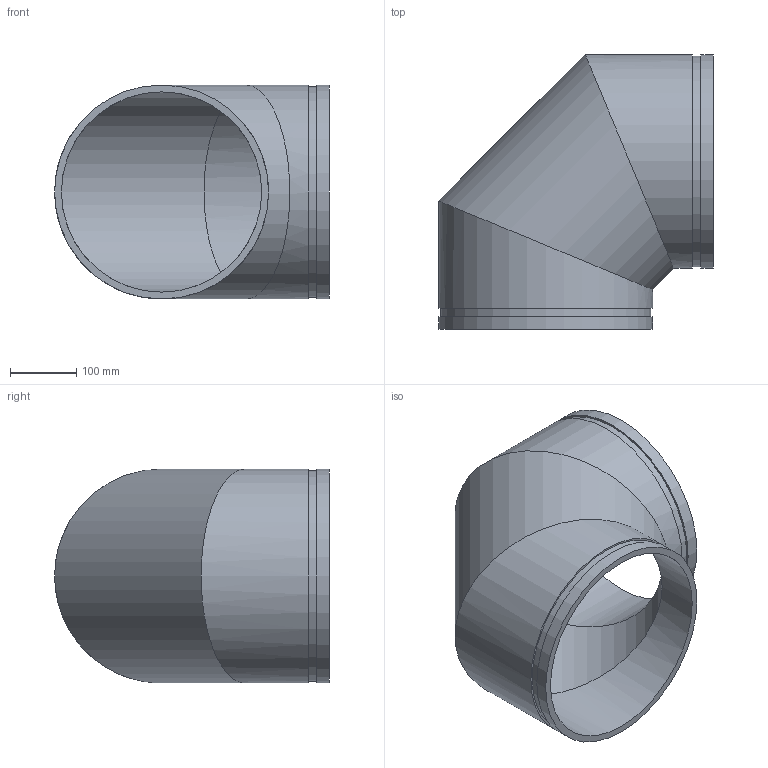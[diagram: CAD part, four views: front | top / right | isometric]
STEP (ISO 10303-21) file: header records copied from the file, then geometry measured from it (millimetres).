
FILE_DESCRIPTION(/* description */ ('VIC 90 DEG ELBOW FABRICATED No 10 SWS (OGS)','CAx-IF Rec.Pracs.---Representation and Presentation of Product Manufacturing Information (PMI)---4.0---2014-10-13'),/* implementation_level */ '2;1');
FILE_NAME(/* name */ 'C:\Users\kkamble\AppData\Roaming\Autodesk\ApplicationPlugins\Back Up\Victaulic_IPS_Elbow 90 Deg_No 10 SWS (OGS)\Victaulic_IPS_Elbow 90 Deg_No 10 SWS (OGS)_12 (300).stp',/* time_stamp */ '2020-09-16T22:18:05+06:00',/* author */ ('cgray'),/* organization */ ('Victaulic'),/* preprocessor_version */ 'ST-DEVELOPER v17.2',/* originating_system */ 'Autodesk Inventor 2019',/* authorisation */ '');
FILE_SCHEMA (('AP242_MANAGED_MODEL_BASED_3D_ENGINEERING_MIM_LF { 1 0 10303 442 1 1 4 }'));
Length unit declared in the file: inch
Products named in the file (1): 10 SWS-12.0
Bounding box: 415.93 x 415.93 x 323.85 mm (x, y, z)
Volume: 4333213.3 mm3; surface area: 885302 mm2
Topology: 1 solids, 1 shells, 16 faces, 38 edges, 28 vertices
Faces by surface type: cylinder 10, plane 6
Full cylindrical faces by diameter (mm): 303.225 x3, 318.287 x2, 323.85 x5
Entity records: 646 total; most frequent: DIRECTION 126, CARTESIAN_POINT 100, ORIENTED_EDGE 76, AXIS2_PLACEMENT_3D 58, EDGE_CURVE 38, VERTEX_POINT 28, EDGE_LOOP 22, STYLED_ITEM 18
